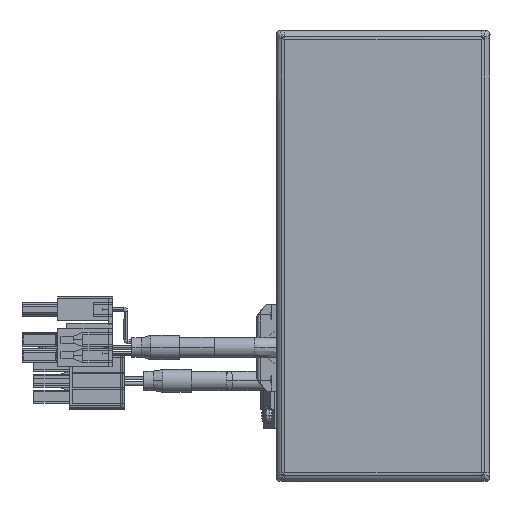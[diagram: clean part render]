
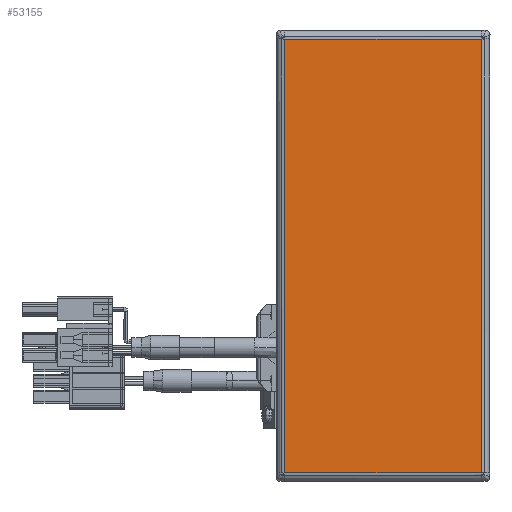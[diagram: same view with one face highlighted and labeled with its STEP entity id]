
A CAD part, top view. The second image highlights one B-rep face of the part: STEP entity #53155.
In plain terms, the highlighted planar face has unit normal (0, 0, 1) as drawn and (0, 0, -1) by its records, which use the part's own axes.
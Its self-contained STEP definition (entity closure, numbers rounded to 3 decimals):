
#1413 = DIRECTION ( 'NONE',  ( -1., 0., 0. ) ) ;
#4448 = EDGE_CURVE ( 'NONE', #29650, #41661, #34843, .T. ) ;
#4840 = DIRECTION ( 'NONE',  ( 0., -1., 0. ) ) ;
#9911 = LINE ( 'NONE', #38276, #33077 ) ;
#10205 = VECTOR ( 'NONE', #25983, 1000. ) ;
#11224 = EDGE_LOOP ( 'NONE', ( #49966, #42305, #52739, #34765 ) ) ;
#11505 = DIRECTION ( 'NONE',  ( -1., 0., 0. ) ) ;
#11920 = EDGE_CURVE ( 'NONE', #41661, #16777, #58982, .T. ) ;
#16777 = VERTEX_POINT ( 'NONE', #34839 ) ;
#17960 = CARTESIAN_POINT ( 'NONE',  ( -56.763, -25.763, -1.5 ) ) ;
#24360 = DIRECTION ( 'NONE',  ( 0., 1., 0. ) ) ;
#25983 = DIRECTION ( 'NONE',  ( 1., 0., 0. ) ) ;
#26807 = EDGE_CURVE ( 'NONE', #16777, #57002, #9911, .T. ) ;
#27294 = VECTOR ( 'NONE', #24360, 1000. ) ;
#28471 = EDGE_CURVE ( 'NONE', #57002, #29650, #51851, .T. ) ;
#28996 = CARTESIAN_POINT ( 'NONE',  ( -56.763, -25.793, -1.5 ) ) ;
#29650 = VERTEX_POINT ( 'NONE', #32760 ) ;
#29854 = FACE_OUTER_BOUND ( 'NONE', #11224, .T. ) ;
#32760 = CARTESIAN_POINT ( 'NONE',  ( -56.763, 25.763, -1.5 ) ) ;
#33016 = VECTOR ( 'NONE', #4840, 1000. ) ;
#33077 = VECTOR ( 'NONE', #1413, 1000. ) ;
#33743 = PLANE ( 'NONE',  #37890 ) ;
#34001 = CARTESIAN_POINT ( 'NONE',  ( 56.763, 25.763, -1.5 ) ) ;
#34765 = ORIENTED_EDGE ( 'NONE', *, *, #4448, .T. ) ;
#34839 = CARTESIAN_POINT ( 'NONE',  ( 56.763, -25.763, -1.5 ) ) ;
#34843 = LINE ( 'NONE', #53615, #10205 ) ;
#37041 = CARTESIAN_POINT ( 'NONE',  ( 56.763, 25.793, -1.5 ) ) ;
#37890 = AXIS2_PLACEMENT_3D ( 'NONE', #42846, #39228, #11505 ) ;
#38276 = CARTESIAN_POINT ( 'NONE',  ( 56.793, -25.763, -1.5 ) ) ;
#39228 = DIRECTION ( 'NONE',  ( 0., 0., -1. ) ) ;
#41661 = VERTEX_POINT ( 'NONE', #34001 ) ;
#42305 = ORIENTED_EDGE ( 'NONE', *, *, #26807, .T. ) ;
#42846 = CARTESIAN_POINT ( 'NONE',  ( 0., 0., -1.5 ) ) ;
#49966 = ORIENTED_EDGE ( 'NONE', *, *, #11920, .T. ) ;
#51851 = LINE ( 'NONE', #28996, #27294 ) ;
#52739 = ORIENTED_EDGE ( 'NONE', *, *, #28471, .T. ) ;
#53155 = ADVANCED_FACE ( 'NONE', ( #29854 ), #33743, .T. ) ;
#53615 = CARTESIAN_POINT ( 'NONE',  ( -56.793, 25.763, -1.5 ) ) ;
#57002 = VERTEX_POINT ( 'NONE', #17960 ) ;
#58982 = LINE ( 'NONE', #37041, #33016 ) ;
